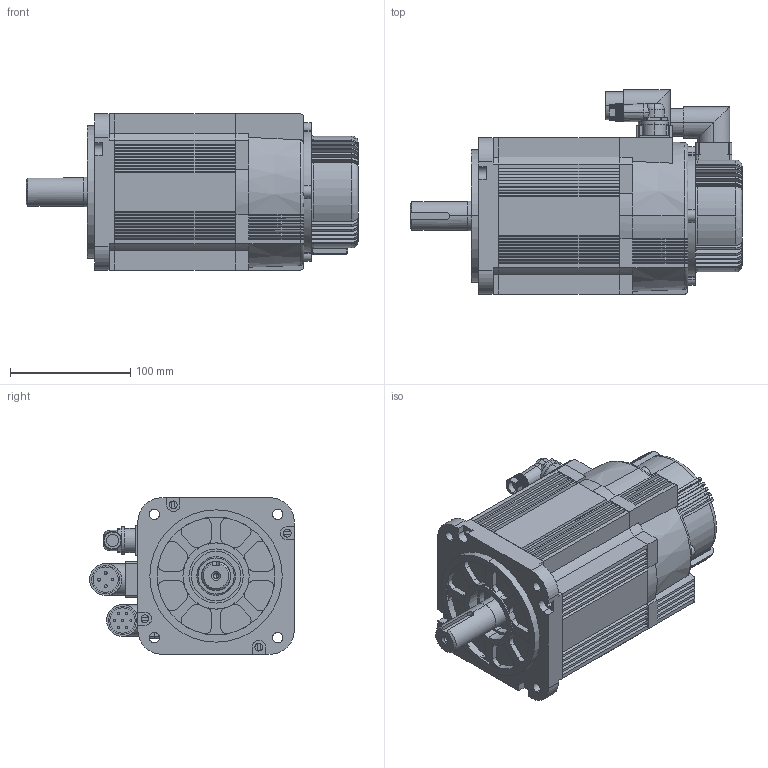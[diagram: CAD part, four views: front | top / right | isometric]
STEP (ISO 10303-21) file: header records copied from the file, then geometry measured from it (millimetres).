
FILE_DESCRIPTION (( 'STEP AP203' ), '1' );
FILE_NAME ('ACM13018H2E.STEP', '2021-04-02T09:15:42', ( '謂矨栲' ), ( 'Microsoft' ), 'SwSTEP 2.0', 'SolidWorks 2014', '' );
FILE_SCHEMA (( 'CONFIG_CONTROL_DESIGN' ));
Length unit declared in the file: millimetre
Products named in the file (1): ACM13018H2E
Bounding box: 276 x 170 x 130 mm (x, y, z)
Volume: 2914227.2 mm3; surface area: 240735 mm2
Topology: 1 solids, 1 shells, 1279 faces, 3617 edges, 2346 vertices
Faces by surface type: plane 685, cylinder 466, torus 71, cone 26, bspline 20, sphere 11
Entity records: 43876 total; most frequent: CARTESIAN_POINT 10469, ORIENTED_EDGE 7140, DIRECTION 6959, EDGE_CURVE 3570, AXIS2_PLACEMENT_3D 2383, VERTEX_POINT 2324, LINE 2193, VECTOR 2193
